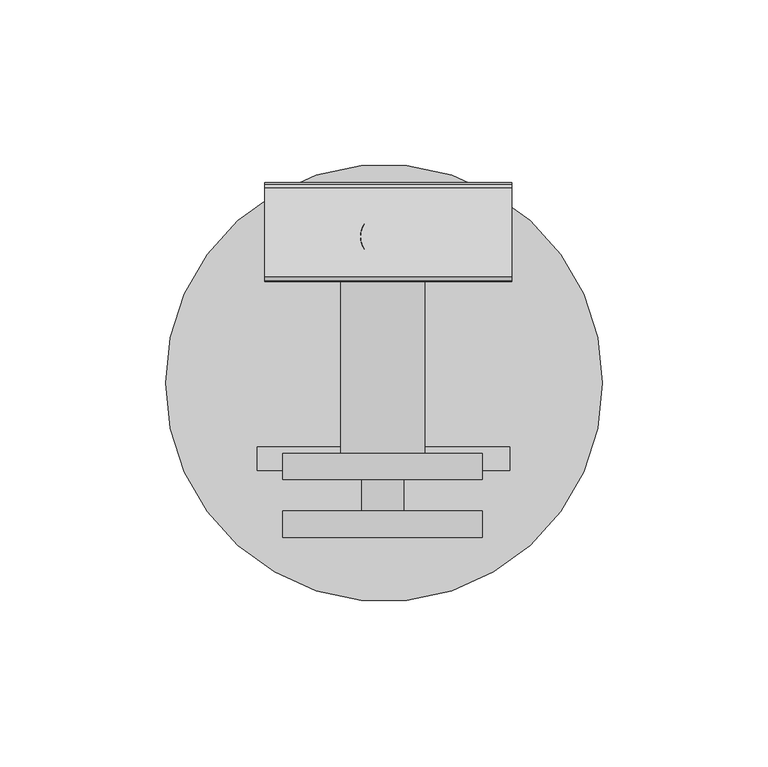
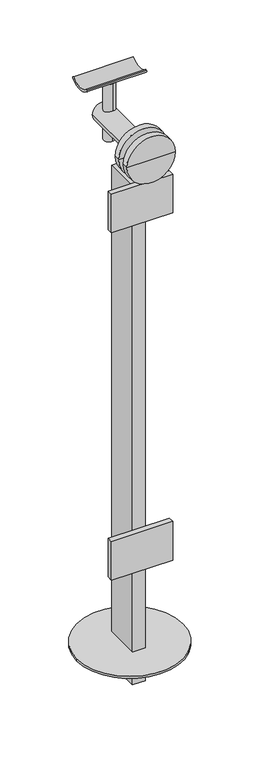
"""IFC4 building model written with IfcOpenShell, lengths in millimetres: proxy geometry, Baluster-End-Post-VIVA-STRUC-Top Mount-Stair : CORED INTO CONCRETE_TOP MOUNT STRUC_STAIR."""

from ifc_helpers import new_model, si_unit, point, frame, frame_2d, origin, place, context, project, spatial, polyline, circle_curve, trimmed, segment, composite_curve, outline, extrude, source, transform, mapped, element, save
from ifc_brep_helpers import plane_surface, cylinder_surface, advanced_brep


def building_element_proxy_1b4bb758(model_context):
    return source(origin(), model_context, "Body", "SolidModel", [
        advanced_brep(
        [(-30.4813346, -136.2128652, 156.7243555), (-6.6688346, -136.2128652, 156.7243555), (6.0311654, -136.2128652, 156.7243555), (29.8436654, -136.2128652, 156.7243555), (-30.4813346, -144.1503652, 156.7243555), (29.8436654, -144.1503652, 156.7243555), (-30.4813346, -118.7498509, 156.7243555), (-13.0188346, -118.7498509, 156.7243555), (12.3811654, -118.7498509, 156.7243555), (29.8436654, -118.7498509, 156.7243555), (-30.4813346, -126.6873509, 156.7243555), (29.8436654, -126.6873509, 156.7243555), (-0.3188346, -144.1503652, 156.7243555), (-13.0188346, -39.3748509, 156.7243555), (-0.3188346, -39.3748509, 156.7243555), (12.3811654, -39.3748509, 156.7243555), (-6.6688346, -126.6873509, 156.7243555), (6.0311654, -126.6873509, 156.7243555)],
        [
            (0, 1),
            (1, 2, circle_curve(frame((-0.3188346, -136.2128652, 156.7243555), z_axis=(0.0, -1.0, 0.0), x_axis=(1.0, 0.0, 0.0)), 6.35)),
            (2, 3),
            (3, 0, circle_curve(frame((-0.3188346, -136.2128652, 156.7243555), z_axis=(0.0, 1.0, 0.0), x_axis=(1.0, 0.0, 0.0)), 30.1625)),
            (4, 0),
            (3, 5),
            (5, 4, circle_curve(frame((-0.3188346, -144.1503652, 156.7243555), z_axis=(0.0, 1.0, 0.0), x_axis=(1.0, 0.0, 0.0)), 30.1625)),
            (6, 7),
            (7, 8, circle_curve(frame((-0.3188346, -118.7498509, 156.7243555), z_axis=(0.0, -1.0, 0.0), x_axis=(1.0, 0.0, 0.0)), 12.7)),
            (8, 9),
            (9, 6, circle_curve(frame((-0.3188346, -118.7498509, 156.7243555), z_axis=(0.0, 1.0, 0.0), x_axis=(1.0, 0.0, 0.0)), 30.1625)),
            (10, 6),
            (9, 11),
            (11, 10, circle_curve(frame((-0.3188346, -126.6873509, 156.7243555), z_axis=(0.0, 1.0, 0.0), x_axis=(1.0, 0.0, 0.0)), 30.1625)),
            (3, 0, circle_curve(frame((-0.3188346, -136.2128652, 156.7243555), z_axis=(0.0, -1.0, 0.0), x_axis=(1.0, 0.0, 0.0)), 30.1625)),
            (4, 5, circle_curve(frame((-0.3188346, -144.1503652, 156.7243555), z_axis=(0.0, 1.0, 0.0), x_axis=(1.0, 0.0, 0.0)), 30.1625)),
            (12, 4),
            (5, 12),
            (13, 14),
            (14, 15),
            (15, 13, circle_curve(frame((-0.3188346, -39.3748509, 156.7243555), z_axis=(0.0, 1.0, 0.0), x_axis=(1.0, 0.0, 0.0)), 12.7)),
            (13, 15, circle_curve(frame((-0.3188346, -39.3748509, 156.7243555), z_axis=(0.0, 1.0, 0.0), x_axis=(1.0, 0.0, 0.0)), 12.7)),
            (7, 13),
            (15, 8),
            (7, 8, circle_curve(frame((-0.3188346, -118.7498509, 156.7243555), z_axis=(0.0, 1.0, 0.0), x_axis=(1.0, 0.0, 0.0)), 12.7)),
            (6, 9, circle_curve(frame((-0.3188346, -118.7498509, 156.7243555), z_axis=(0.0, 1.0, 0.0), x_axis=(1.0, 0.0, 0.0)), 30.1625)),
            (10, 11, circle_curve(frame((-0.3188346, -126.6873509, 156.7243555), z_axis=(0.0, 1.0, 0.0), x_axis=(1.0, 0.0, 0.0)), 30.1625)),
            (16, 10),
            (11, 17),
            (17, 16, circle_curve(frame((-0.3188346, -126.6873509, 156.7243555), z_axis=(0.0, 1.0, 0.0), x_axis=(1.0, 0.0, 0.0)), 6.35)),
            (16, 17, circle_curve(frame((-0.3188346, -126.6873509, 156.7243555), z_axis=(0.0, 1.0, 0.0), x_axis=(1.0, 0.0, 0.0)), 6.35)),
            (1, 16),
            (17, 2),
            (1, 2, circle_curve(frame((-0.3188346, -136.2128652, 156.7243555), z_axis=(0.0, 1.0, 0.0), x_axis=(1.0, 0.0, 0.0)), 6.35)),
        ],
        [
            plane_surface(frame((-0.3188346, -136.2128652, 156.7243555), z_axis=(0.0, 1.0, 0.0), x_axis=(1.0, 0.0, 0.0))),
            cylinder_surface(frame((-0.3188346, -1650.6873509, 156.7243555), z_axis=(0.0, -1.0, 0.0), x_axis=(1.0, 0.0, 0.0)), 30.1625),
            plane_surface(frame((-0.3188346, -118.7498509, 156.7243555), z_axis=(0.0, 1.0, 0.0), x_axis=(1.0, 0.0, 0.0))),
            plane_surface(frame((-0.3188346, -144.1503652, 156.7243555), z_axis=(0.0, -1.0, 0.0), x_axis=(1.0, 0.0, 0.0))),
            plane_surface(frame((-0.3188346, -39.3748509, 156.7243555), z_axis=(0.0, 1.0, 0.0), x_axis=(1.0, 0.0, 0.0))),
            cylinder_surface(frame((-0.3188346, -1650.6873509, 156.7243555), z_axis=(0.0, -1.0, 0.0), x_axis=(1.0, 0.0, 0.0)), 12.7),
            plane_surface(frame((-0.3188346, -126.6873509, 156.7243555), z_axis=(0.0, -1.0, 0.0), x_axis=(1.0, 0.0, 0.0))),
            cylinder_surface(frame((-0.3188346, -1650.6873509, 156.7243555), z_axis=(0.0, -1.0, 0.0), x_axis=(1.0, 0.0, 0.0)), 6.35),
        ],
        [
            (0, [[1, 2, 3, 4]]),
            (1, [[5, -4, 6, 7]]),
            (2, [[8, 9, 10, 11]]),
            (1, [[12, -11, 13, 14]]),
            (1, [[-6, 15, -5, 16]]),
            (3, [[17, -7, 18]]),
            (3, [[-18, -16, -17]]),
            (4, [[19, 20, 21]]),
            (4, [[-20, -19, 22]]),
            (5, [[23, -21, 24, -9]]),
            (5, [[-24, -22, -23, 25]]),
            (2, [[-10, -25, -8, 26]]),
            (1, [[-13, -26, -12, 27]]),
            (6, [[28, -14, 29, 30]]),
            (6, [[-29, -27, -28, 31]]),
            (7, [[32, -30, 33, -2]]),
            (7, [[-33, -31, -32, 34]]),
            (0, [[-3, -34, -1, -15]]),
        ],
    ),
        extrude(outline(composite_curve([segment(trimmed(circle_curve(frame_2d((0.0, 7.0)), 7.0), [point((0.0, 14.0))], [point((0.0, 0.0))], False, "CARTESIAN"), True, "CONTINUOUS"), segment(trimmed(circle_curve(frame_2d((0.0, 7.0)), 7.0), [point((0.0, 0.0))], [point((0.0, 14.0))], False, "CARTESIAN"), True, "CONTINUOUS")], self_intersect=False)), frame((-0.0962106, -60.22249, 129.823392), z_axis=(0.0012664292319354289, 0.0, 0.9999991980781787), x_axis=(0.9999991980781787, 0.0, -0.0012664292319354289)), (0.0, 0.0, 1.0), 75.97),
        extrude(outline(composite_curve([segment(trimmed(circle_curve(frame_2d((18.6575251, 0.3952033)), 19.05), [point((5.2466064, 13.9247915))], [point((5.2466064, -13.134385))], True, "CARTESIAN"), True, "CONTINUOUS"), segment(polyline([(5.2466064, -13.134385), (4.2292193, -14.1607746)]), True, "CONTINUOUS"), segment(trimmed(circle_curve(frame_2d((3.1638974, -13.1047967)), 1.5), [point((4.2292193, -14.1607746))], [point((2.0329757, -14.0901982))], False, "CARTESIAN"), True, "CONTINUOUS"), segment(trimmed(circle_curve(frame_2d((18.6575251, 0.3952033)), 22.05), [point((2.0329757, -14.0901982))], [point((2.0329757, 14.8806047))], False, "CARTESIAN"), True, "CONTINUOUS"), segment(trimmed(circle_curve(frame_2d((3.1638974, 13.8952033)), 1.5), [point((2.0329757, 14.8806047))], [point((4.2292193, 14.9511811))], False, "CARTESIAN"), True, "CONTINUOUS"), segment(polyline([(4.2292193, 14.9511811), (5.2466064, 13.9247915)]), True, "CONTINUOUS")], self_intersect=False)), frame((-35.8856441, -51.4952577, 209.2122068), z_axis=(0.9999999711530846, 0.0, 0.0002401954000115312), x_axis=(-0.0002401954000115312, 0.0, 0.9999999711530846)), (0.0, 0.0, 1.0), 74.5229187),
        extrude(outline(polyline([(-38.1007192, -123.8478567), (-38.1007192, -116.7358567), (38.1007192, -116.7358567), (38.1007192, -123.8478567), (-38.1007192, -123.8478567)])), frame((0.0, 0.0, 61.2476928), z_axis=(0.0, 0.0, 1.0), x_axis=(1.0, 0.0, 0.0)), (0.0, 0.0, 1.0), 50.8),
        extrude(outline(polyline([(-38.1007192, -123.8478567), (-38.1007192, -116.7358567), (38.1007192, -116.7358567), (38.1007192, -123.8478567), (-38.1007192, -123.8478567)])), frame((0.0, 0.0, -395.9523072), z_axis=(0.0, 0.0, 1.0), x_axis=(1.0, 0.0, 0.0)), (0.0, 0.0, 1.0), 50.8),
        extrude(outline(composite_curve([segment(trimmed(circle_curve(frame_2d((0.11875, -97.3499934)), 66.0), [point((66.11875, -97.3499934))], [point((-65.88125, -97.3499934))], False, "CARTESIAN"), True, "CONTINUOUS"), segment(trimmed(circle_curve(frame_2d((0.11875, -97.3499934)), 66.0), [point((-65.88125, -97.3499934))], [point((66.11875, -97.3499934))], False, "CARTESIAN"), True, "CONTINUOUS")], self_intersect=False)), frame((0.0, 0.0, -508.6286445), z_axis=(0.0, 0.0, 1.0), x_axis=(1.0, 0.0, 0.0)), (0.0, 0.0, 1.0), 3.0),
        extrude(outline(polyline([(-7.9375, -72.2858567), (7.9375, -72.2858567), (7.9375, -116.7358567), (-7.9375, -116.7358567), (-7.9375, -72.2858567)])), frame((0.0, 0.0, -548.3523072), z_axis=(0.0, 0.0, 1.0), x_axis=(1.0, 0.0, 0.0)), (0.0, 0.0, 1.0), 656.9868373),
    ])


if __name__ == "__main__":
    model = new_model("IFC4")
    model_context = context("Model", 3, world=origin())
    ifc_project = project(units=[si_unit("LENGTHUNIT", "METRE", prefix="MILLI")], contexts=[model_context])
    site = spatial("IfcSite", under=ifc_project)
    building = spatial("IfcBuilding", under=site)
    placement = place(None, origin())
    building_element_proxy_shape = building_element_proxy_1b4bb758(model_context)
    element("IfcBuildingElementProxy", 1, Name="Baluster-End-Post-VIVA-STRUC-Top Mount-Stair : CORED INTO CONCRETE_TOP MOUNT STRUC_STAIR", ObjectType="Baluster-End-Post-VIVA-STRUC-Top Mount-Stair : CORED INTO CONCRETE_TOP MOUNT STRUC_STAIR", at=placement, inside=building, context=model_context, shape_type="MappedRepresentation", body=[
        mapped(building_element_proxy_shape, transform((0.0, 0.0, 0.0), x_axis=(1.0, 0.0, 0.0), y_axis=(0.0, 1.0, 0.0), z_axis=(0.0, 0.0, 1.0))),
    ])
    save(model, "model.ifc")
